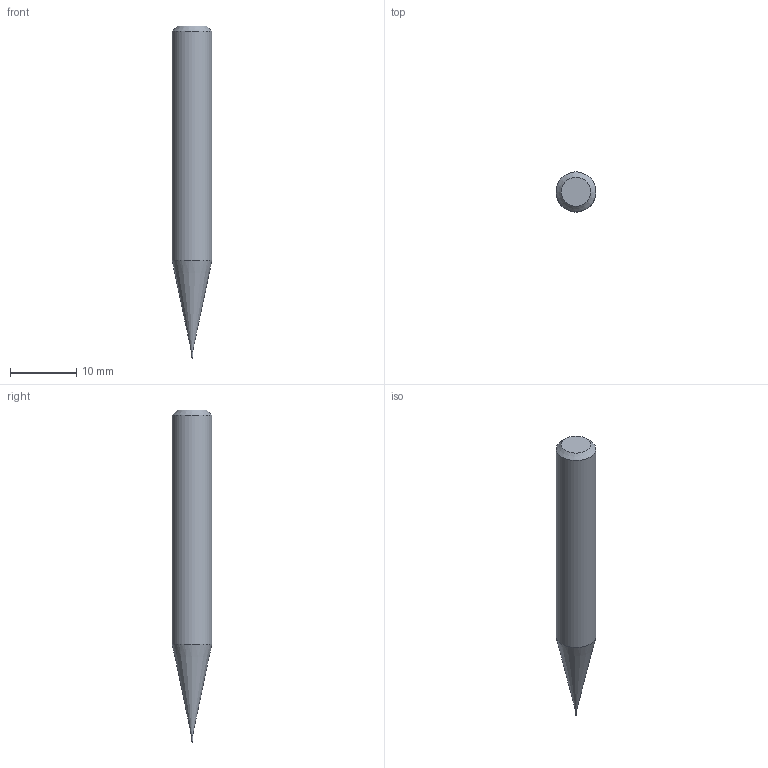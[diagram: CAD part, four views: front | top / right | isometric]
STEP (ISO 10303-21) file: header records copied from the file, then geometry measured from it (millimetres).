
FILE_DESCRIPTION((''),'2;1');
FILE_NAME('C:\Users\nsx150\AppData\Local\Temp\Mastercam 2021\ARV7HD45SN\TEMP.step','2023-06-13T16:32:04',(''),(''),'STEP Write','Mastercam 2021 ... CNC Software, Inc.','');
FILE_SCHEMA(('AUTOMOTIVE_DESIGN'));
Length unit declared in the file: millimetre
Products named in the file (1): None
Bounding box: 6 x 6 x 50 mm (x, y, z)
Volume: 1125.9 mm3; surface area: 820.7 mm2
Topology: 2 solids, 2 shells, 9 faces, 14 edges, 8 vertices
Faces by surface type: plane 3, cylinder 3, cone 2, sphere 1
Full cylindrical faces by diameter (mm): 0.18 x1, 0.2 x1, 6 x1
Entity records: 211 total; most frequent: DIRECTION 36, CARTESIAN_POINT 25, AXIS2_PLACEMENT_3D 18, ORIENTED_EDGE 14, EDGE_LOOP 14, STYLED_ITEM 12, ADVANCED_FACE 9, FACE_BOUND 8
